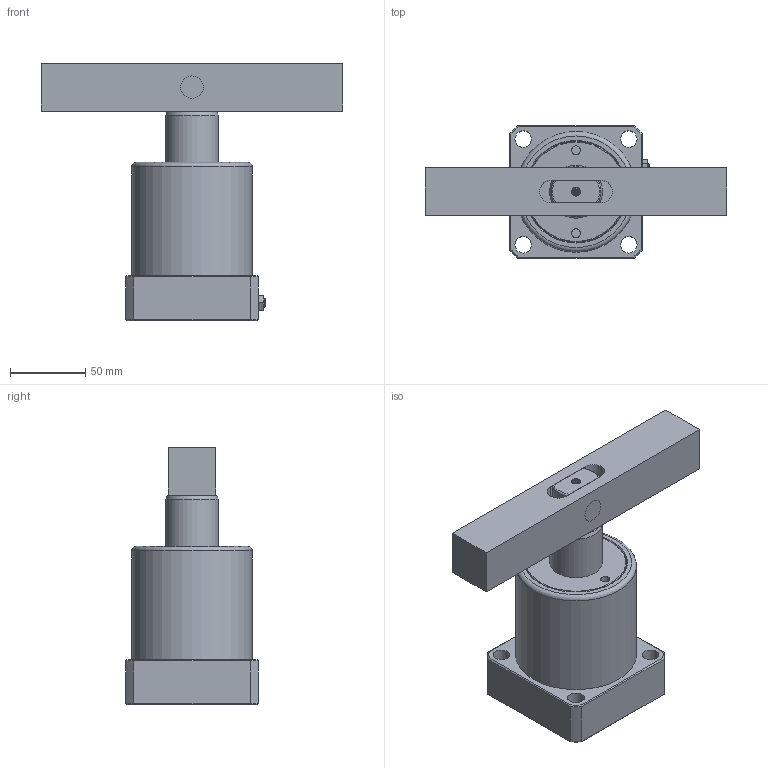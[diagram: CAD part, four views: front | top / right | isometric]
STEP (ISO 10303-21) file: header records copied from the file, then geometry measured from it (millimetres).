
FILE_DESCRIPTION(/* description */ ('Unknown'),/* implementation_level */ '2;1');
FILE_NAME(/* name */ 'HSC-MF63D-B',/* time_stamp */ '2019-05-27T16:03:38+08:00',/* author */ ('Unknown'),/* organization */ ('Unknown'),/* preprocessor_version */ 'ST-DEVELOPER v16.7',/* originating_system */ 'DEX',/* authorisation */ $);
FILE_SCHEMA (('AUTOMOTIVE_DESIGN {1 0 10303 214 3 1 1}'));
Length unit declared in the file: millimetre
Products named in the file (5): HSC-MF63D-B; HSC-MF63D-CYLINDER; HSC-6302-D-AXLE CENTRE; HSC-6302-D-FIXED PIN; HSC-63D-B
Assembly tree (4 placements, depth 2):
  HSC-MF63D-B
    HSC-MF63D-CYLINDER
    HSC-6302-D-AXLE CENTRE
    HSC-6302-D-FIXED PIN
    HSC-63D-B
Bounding box: 200 x 88 x 170.8 mm (x, y, z)
Volume: 729351.2 mm3; surface area: 118463 mm2
Topology: 4 solids, 4 shells, 139 faces, 295 edges, 180 vertices
Faces by surface type: plane 58, cone 30, cylinder 28, bspline 18, torus 5
Full cylindrical faces by diameter (mm): 5 x2, 6 x3, 11 x4, 12 x2, 15 x4, 35 x2, 63 x2, 80 x1
Entity records: 3899 total; most frequent: CARTESIAN_POINT 1040, DIRECTION 540, ORIENTED_EDGE 512, EDGE_CURVE 256, AXIS2_PLACEMENT_3D 232, EDGE_LOOP 204, FACE_BOUND 204, VERTEX_POINT 174
